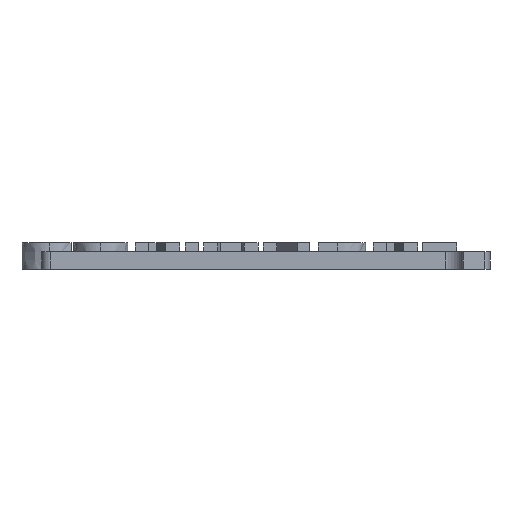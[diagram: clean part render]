
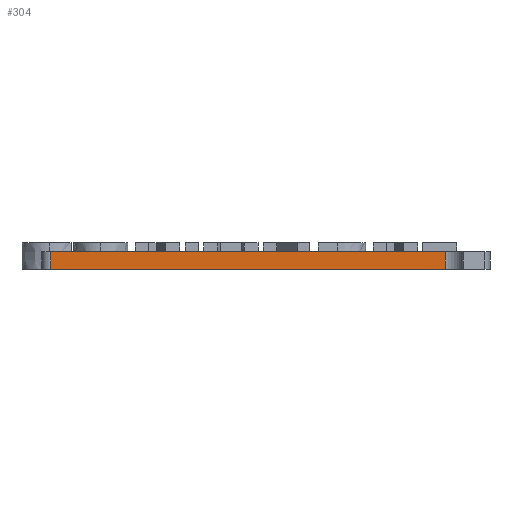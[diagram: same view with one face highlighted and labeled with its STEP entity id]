
A CAD part, front view. The second image highlights one B-rep face of the part: STEP entity #304.
In plain terms, the highlighted planar face has unit normal (0, -1, 0).
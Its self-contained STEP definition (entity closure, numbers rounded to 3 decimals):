
#304=ADVANCED_FACE('',(#660),#661,.T.);
#660=FACE_OUTER_BOUND('',#1073,.T.);
#661=PLANE('',#1074);
#1073=EDGE_LOOP('',(#2097,#2098,#2099,#2100));
#1074=AXIS2_PLACEMENT_3D('',#2101,#2102,#2103);
#2097=ORIENTED_EDGE('',*,*,#2993,.T.);
#2098=ORIENTED_EDGE('',*,*,#3053,.T.);
#2099=ORIENTED_EDGE('',*,*,#3039,.F.);
#2100=ORIENTED_EDGE('',*,*,#3054,.T.);
#2101=CARTESIAN_POINT('',(-26.5,-3.0,0.0));
#2102=DIRECTION('',(0.,-1.0,0.0));
#2103=DIRECTION('',(1.0,0.,0.0));
#2993=EDGE_CURVE('',#3709,#3707,#3710,.T.);
#3039=EDGE_CURVE('',#3780,#3782,#3783,.T.);
#3053=EDGE_CURVE('',#3707,#3782,#3807,.T.);
#3054=EDGE_CURVE('',#3780,#3709,#3808,.F.);
#3707=VERTEX_POINT('',#4863);
#3709=VERTEX_POINT('',#4865);
#3710=LINE('',#4866,#4867);
#3780=VERTEX_POINT('',#5043);
#3782=VERTEX_POINT('',#5045);
#3783=LINE('',#5046,#5047);
#3807=LINE('',#5080,#5081);
#3808=LINE('',#5082,#5083);
#4863=CARTESIAN_POINT('',(-5.0,-3.0,0.0));
#4865=CARTESIAN_POINT('',(-49.0,-3.0,0.0));
#4866=CARTESIAN_POINT('',(-26.5,-3.0,0.0));
#4867=VECTOR('',#5590,1.0);
#5043=CARTESIAN_POINT('',(-49.0,-3.0,2.0));
#5045=CARTESIAN_POINT('',(-5.0,-3.0,2.0));
#5046=CARTESIAN_POINT('',(-26.5,-3.0,2.0));
#5047=VECTOR('',#5621,1.0);
#5080=CARTESIAN_POINT('',(-5.0,-3.0,2.0));
#5081=VECTOR('',#5640,1.0);
#5082=CARTESIAN_POINT('',(-49.0,-3.0,0.0));
#5083=VECTOR('',#5641,1.0);
#5590=DIRECTION('',(1.0,0.,0.0));
#5621=DIRECTION('',(1.0,0.,0.0));
#5640=DIRECTION('',(0.0,0.0,1.0));
#5641=DIRECTION('',(0.0,0.0,1.0));
